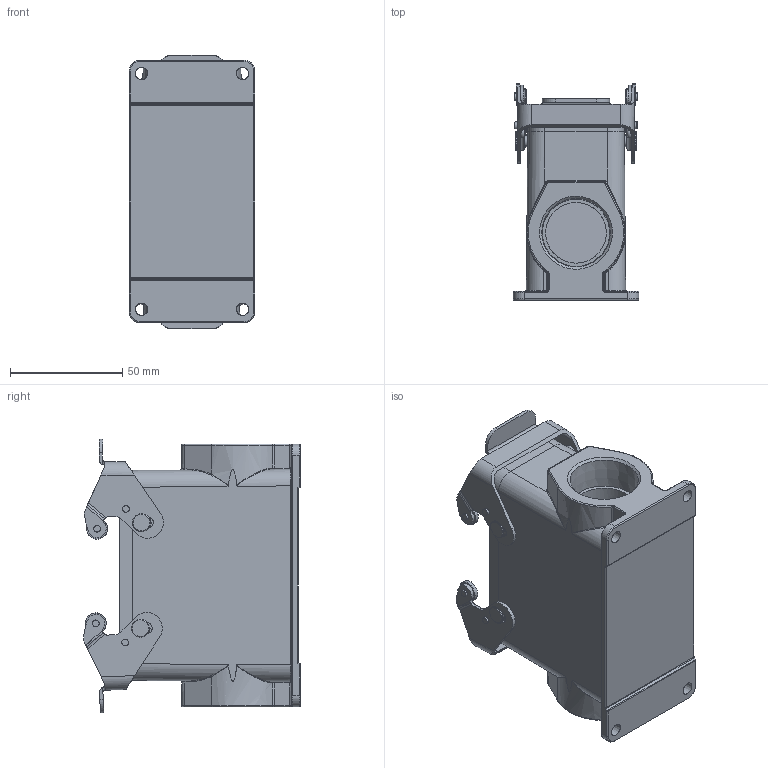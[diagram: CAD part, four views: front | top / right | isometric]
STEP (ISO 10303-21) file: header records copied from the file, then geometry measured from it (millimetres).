
FILE_DESCRIPTION (( 'STEP AP203' ), '1' );
FILE_NAME ('H16B-SGRH-M32.STEP', '2023-06-09T03:05:27', ( '' ), ( '' ), 'SwSTEP 2.0', 'SolidWorks 2016', '' );
FILE_SCHEMA (( 'CONFIG_CONTROL_DESIGN' ));
Length unit declared in the file: millimetre
Products named in the file (1): H16B-SGRH-M32
Bounding box: 56 x 96.64 x 121.89 mm (x, y, z)
Volume: 152439.8 mm3; surface area: 70572.7 mm2
Topology: 1 solids, 7 shells, 674 faces, 1751 edges, 1110 vertices
Faces by surface type: cylinder 255, plane 211, torus 83, cone 64, bspline 57, sphere 4
Full cylindrical faces by diameter (mm): 1.8 x4, 2.95 x12, 3 x8, 4.8 x12, 4.9 x4, 6.3 x8, 8 x4, 9.4 x4, 27 x1
Entity records: 28957 total; most frequent: CARTESIAN_POINT 14366, ORIENTED_EDGE 3070, DIRECTION 2703, EDGE_CURVE 1535, AXIS2_PLACEMENT_3D 1067, VERTEX_POINT 1029, EDGE_LOOP 870, FACE_OUTER_BOUND 767
